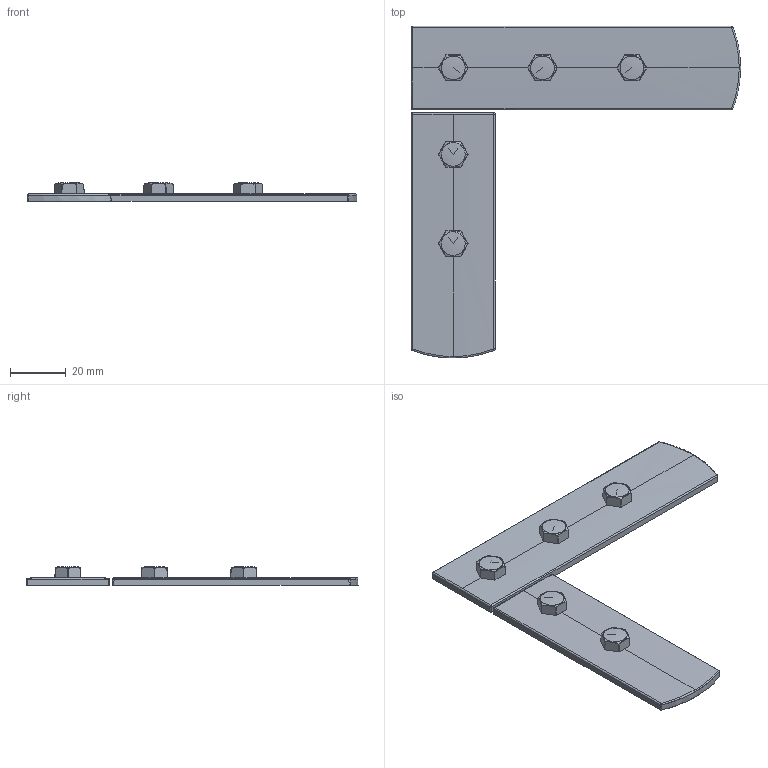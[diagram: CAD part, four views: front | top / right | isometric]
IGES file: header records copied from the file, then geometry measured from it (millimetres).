
Start section: C
Global section: file name: 8292-118-88-B3.igs; native system: By Siemens PLM Incorporated; preprocessor: XPlus GENERIC/IGES 16.0.42; author: Author; organization: Title; date: 20230831.121604; units: millimetre
Bounding box: 118 x 118.95 x 6.8 mm (x, y, z)
Surface area: 14105.9 mm2 (no closed solid volume)
Topology: 0 solids, 0 shells, 185 faces, 997 edges, 992 vertices
Faces by surface type: bspline 185
